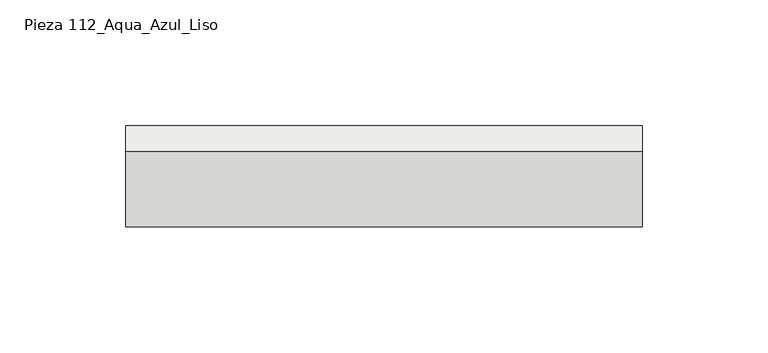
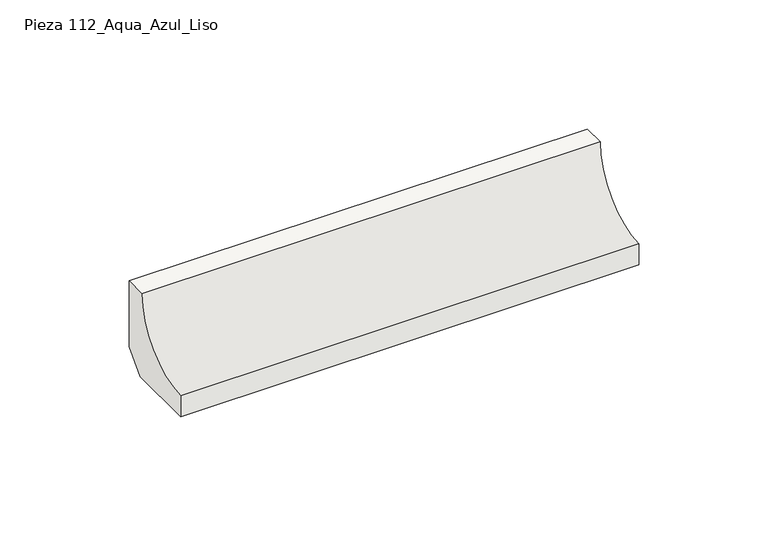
"""IFC4 building model written with IfcOpenShell, lengths in millimetres: slab geometry, ROSA GRES_112 : Pieza 112_Aqua_Azul_Liso."""

from ifc_helpers import new_model, si_unit, point, frame, frame_2d, origin, place, context, project, spatial, polyline, circle_curve, trimmed, segment, composite_curve, outline, extrude, source, transform, mapped, element, save


def pieza_112_aqua_azul_liso_0fc99386(model_context):
    return source(origin(), model_context, "Body", "SweptSolid", [
        extrude(outline(composite_curve([segment(polyline([(0.0, 8.7114978), (-8.7114978, 0.0), (-40.0, 0.0), (-40.0, 9.9734114)]), True, "CONTINUOUS"), segment(trimmed(circle_curve(frame_2d((-39.9955547, 39.9955547)), 30.0221435), [point((-40.0, 9.9734114))], [point((-9.9734114, 40.0))], True, "CARTESIAN"), True, "CONTINUOUS"), segment(polyline([(-9.9734114, 40.0), (0.0, 40.0), (0.0, 8.7114978)]), True, "CONTINUOUS")], self_intersect=False)), frame((0.0, 0.0, 0.0), z_axis=(1.0, 0.0, 0.0), x_axis=(0.0, 1.0, 0.0)), (0.0, 0.0, 1.0), 205.0265886),
    ])


if __name__ == "__main__":
    model = new_model("IFC4")
    model_context = context("Model", 3, world=origin())
    ifc_project = project(units=[si_unit("LENGTHUNIT", "METRE", prefix="MILLI")], contexts=[model_context])
    site = spatial("IfcSite", under=ifc_project)
    building = spatial("IfcBuilding", under=site)
    placement = place(None, origin())
    pieza_112_aqua_azul_liso_shape = pieza_112_aqua_azul_liso_0fc99386(model_context)
    element("IfcSlab", 1, ObjectType="ROSA GRES_112 : Pieza 112_Aqua_Azul_Liso", at=placement, inside=building, context=model_context, shape_type="MappedRepresentation", body=[
        mapped(pieza_112_aqua_azul_liso_shape, transform((0.0, 0.0, 0.0), x_axis=(1.0, 0.0, 0.0), y_axis=(0.0, 1.0, 0.0), z_axis=(0.0, 0.0, 1.0))),
    ])
    save(model, "model.ifc")
